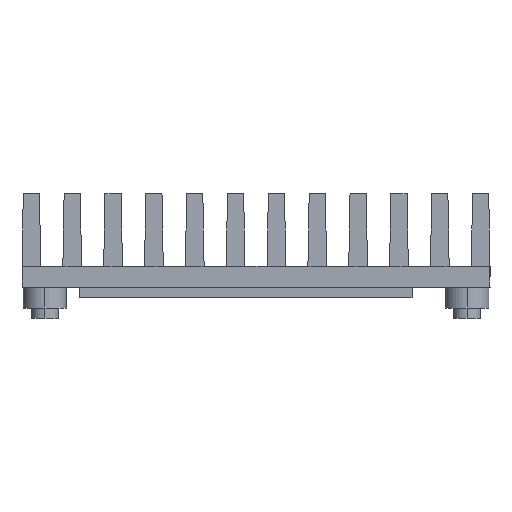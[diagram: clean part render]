
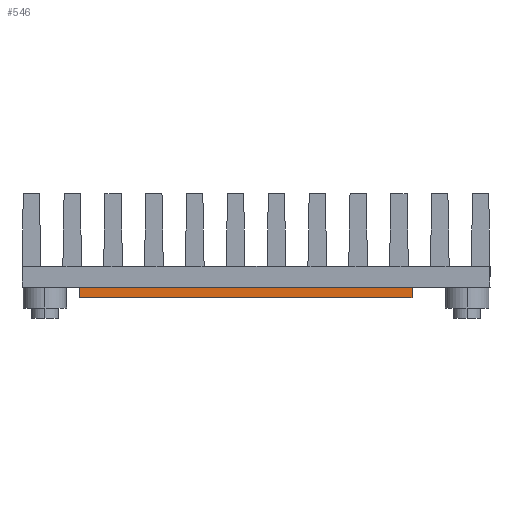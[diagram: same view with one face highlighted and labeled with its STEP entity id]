
A CAD part, left-side view. The second image highlights one B-rep face of the part: STEP entity #546.
In plain terms, the highlighted planar face has unit normal (-1, 0, 0).
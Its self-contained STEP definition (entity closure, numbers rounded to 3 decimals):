
#452 = VECTOR ( 'NONE', #1241, 1000. ) ;
#546 = ADVANCED_FACE ( 'NONE', ( #16119 ), #9886, .F. ) ;
#1169 = LINE ( 'NONE', #19951, #18153 ) ;
#1241 = DIRECTION ( 'NONE',  ( 0., 0., 1. ) ) ;
#3616 = CARTESIAN_POINT ( 'NONE',  ( -9.7, -15., -1. ) ) ;
#4086 = CARTESIAN_POINT ( 'NONE',  ( -9.7, 17., 0. ) ) ;
#4273 = EDGE_CURVE ( 'NONE', #9383, #10248, #16830, .T. ) ;
#4370 = ORIENTED_EDGE ( 'NONE', *, *, #18765, .T. ) ;
#5886 = DIRECTION ( 'NONE',  ( 0., 1., 0. ) ) ;
#6053 = CARTESIAN_POINT ( 'NONE',  ( -9.7, -15., -1. ) ) ;
#7143 = EDGE_LOOP ( 'NONE', ( #4370, #19924, #19477, #12061 ) ) ;
#7391 = CARTESIAN_POINT ( 'NONE',  ( -9.7, -15., 0. ) ) ;
#7517 = CARTESIAN_POINT ( 'NONE',  ( -9.7, 17., -1. ) ) ;
#9026 = CARTESIAN_POINT ( 'NONE',  ( -9.7, -15., -1. ) ) ;
#9383 = VERTEX_POINT ( 'NONE', #10399 ) ;
#9406 = VERTEX_POINT ( 'NONE', #7391 ) ;
#9886 = PLANE ( 'NONE',  #11869 ) ;
#10248 = VERTEX_POINT ( 'NONE', #18603 ) ;
#10399 = CARTESIAN_POINT ( 'NONE',  ( -9.7, -15., -1. ) ) ;
#11824 = VECTOR ( 'NONE', #17030, 1000. ) ;
#11869 = AXIS2_PLACEMENT_3D ( 'NONE', #3616, #16511, #17883 ) ;
#12061 = ORIENTED_EDGE ( 'NONE', *, *, #18137, .T. ) ;
#13671 = EDGE_CURVE ( 'NONE', #10248, #17712, #17303, .T. ) ;
#15503 = VECTOR ( 'NONE', #19191, 1000. ) ;
#15848 = LINE ( 'NONE', #6053, #15503 ) ;
#16119 = FACE_OUTER_BOUND ( 'NONE', #7143, .T. ) ;
#16511 = DIRECTION ( 'NONE',  ( 1., 0., 0. ) ) ;
#16830 = LINE ( 'NONE', #9026, #11824 ) ;
#17030 = DIRECTION ( 'NONE',  ( 0., 1., 0. ) ) ;
#17303 = LINE ( 'NONE', #7517, #452 ) ;
#17712 = VERTEX_POINT ( 'NONE', #4086 ) ;
#17883 = DIRECTION ( 'NONE',  ( 0., 0., -1. ) ) ;
#18137 = EDGE_CURVE ( 'NONE', #9383, #9406, #15848, .T. ) ;
#18153 = VECTOR ( 'NONE', #5886, 1000. ) ;
#18603 = CARTESIAN_POINT ( 'NONE',  ( -9.7, 17., -1. ) ) ;
#18765 = EDGE_CURVE ( 'NONE', #9406, #17712, #1169, .T. ) ;
#19191 = DIRECTION ( 'NONE',  ( 0., 0., 1. ) ) ;
#19477 = ORIENTED_EDGE ( 'NONE', *, *, #4273, .F. ) ;
#19924 = ORIENTED_EDGE ( 'NONE', *, *, #13671, .F. ) ;
#19951 = CARTESIAN_POINT ( 'NONE',  ( -9.7, -15., 0. ) ) ;
